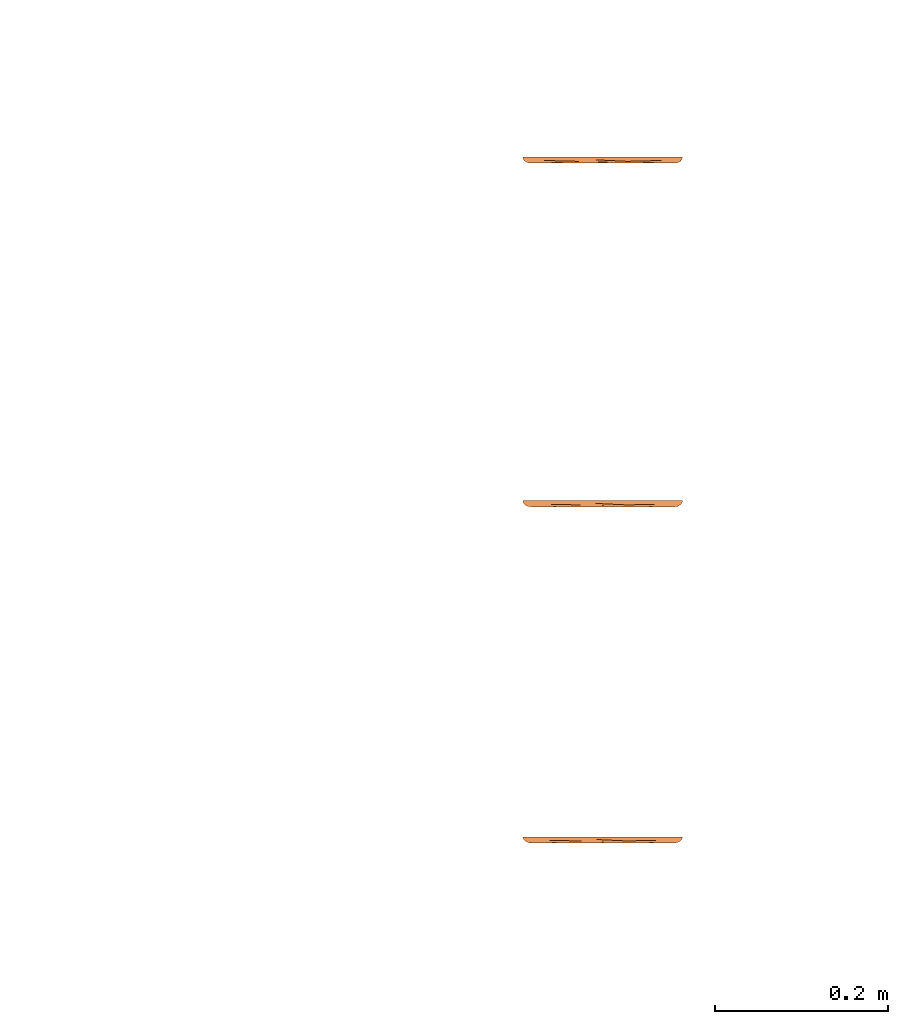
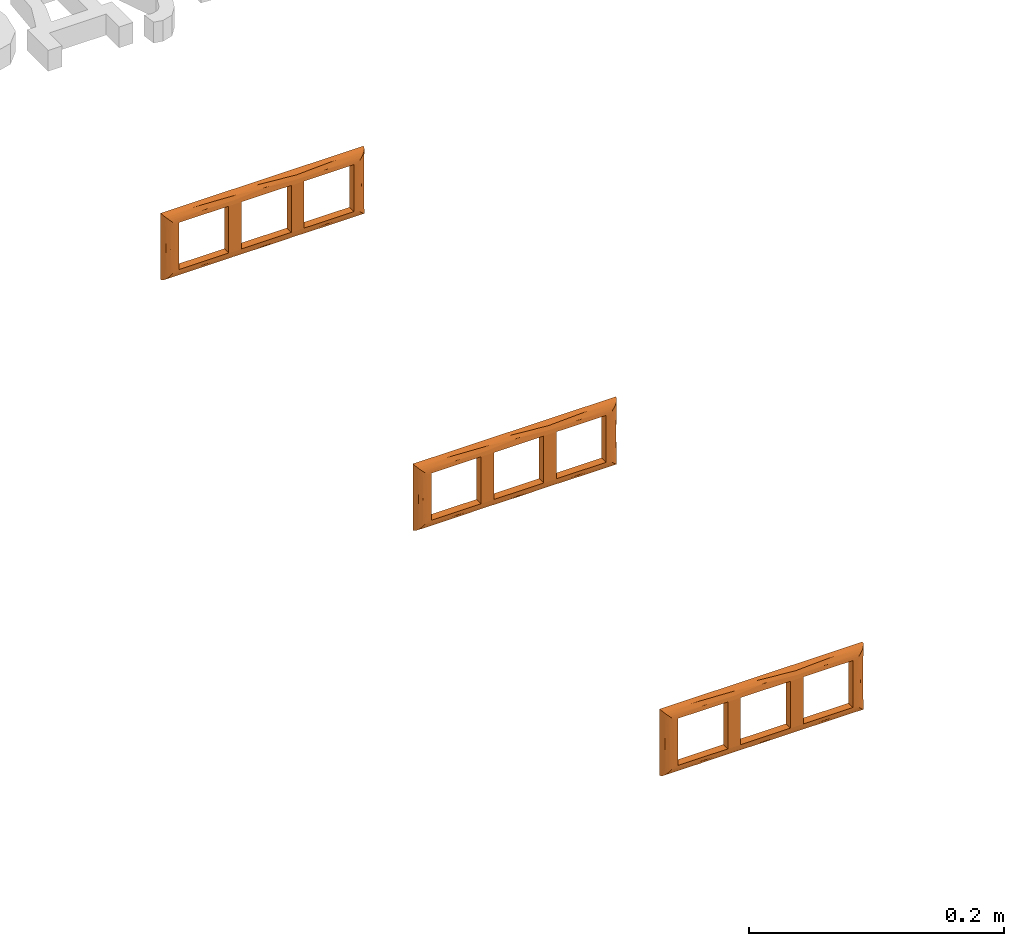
# One storey, part 85 of 87: 3 proxies.
"""IFC2X3 building model written with IfcOpenShell, lengths in millimetres."""

from ifc_helpers import new_model, entity, si_unit, converted_unit, derived_unit, direction, frame, origin, place, context, subcontext, project, spatial, faceted_brep, source, transform, mapped, material, type_object, type_shapes, element, save


model = new_model("IFC2X3")

# Units and contexts
model_context = context("Model", 3, precision=0.01, world=origin(), true_north=direction((6.12303176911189e-17, 1.0)))
body_context = subcontext(model_context, "Body", "Model", "MODEL_VIEW")
ifc_project = project(units=[si_unit("LENGTHUNIT", "METRE", prefix="MILLI"), si_unit("AREAUNIT", "SQUARE_METRE"), si_unit("VOLUMEUNIT", "CUBIC_METRE"), converted_unit("PLANEANGLEUNIT", "DEGREE", entity("IfcRatioMeasure", 0.0174532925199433), si_unit("PLANEANGLEUNIT", "RADIAN"), dimensions=[0, 0, 0, 0, 0, 0, 0]), si_unit("MASSUNIT", "GRAM", prefix="KILO"), derived_unit("MASSDENSITYUNIT", [(si_unit("MASSUNIT", "GRAM", prefix="KILO"), 1), (si_unit("LENGTHUNIT", "METRE"), -3)]), si_unit("TIMEUNIT", "SECOND"), si_unit("FREQUENCYUNIT", "HERTZ"), si_unit("THERMODYNAMICTEMPERATUREUNIT", "DEGREE_CELSIUS"), derived_unit("THERMALTRANSMITTANCEUNIT", [(si_unit("MASSUNIT", "GRAM", prefix="KILO"), 1), (si_unit("THERMODYNAMICTEMPERATUREUNIT", "KELVIN"), -1), (si_unit("TIMEUNIT", "SECOND"), -3)]), derived_unit("VOLUMETRICFLOWRATEUNIT", [(si_unit("LENGTHUNIT", "METRE"), 3), (si_unit("TIMEUNIT", "SECOND"), -1)]), si_unit("ELECTRICCURRENTUNIT", "AMPERE"), si_unit("ELECTRICVOLTAGEUNIT", "VOLT"), si_unit("POWERUNIT", "WATT"), si_unit("FORCEUNIT", "NEWTON", prefix="KILO"), si_unit("ILLUMINANCEUNIT", "LUX"), si_unit("LUMINOUSFLUXUNIT", "LUMEN"), si_unit("LUMINOUSINTENSITYUNIT", "CANDELA"), derived_unit("USERDEFINED", [(si_unit("MASSUNIT", "GRAM", prefix="KILO"), -1), (si_unit("LENGTHUNIT", "METRE"), -2), (si_unit("TIMEUNIT", "SECOND"), 3), (si_unit("LUMINOUSFLUXUNIT", "LUMEN"), 1)]), derived_unit("LINEARVELOCITYUNIT", [(si_unit("LENGTHUNIT", "METRE"), 1), (si_unit("TIMEUNIT", "SECOND"), -1)]), si_unit("PRESSUREUNIT", "PASCAL"), derived_unit("USERDEFINED", [(si_unit("LENGTHUNIT", "METRE"), -2), (si_unit("MASSUNIT", "GRAM", prefix="KILO"), 1), (si_unit("TIMEUNIT", "SECOND"), -2)])], contexts=[model_context])

# Site, building, storey
site_placement = place(None, origin())
site = spatial("IfcSite", under=ifc_project, at=site_placement, Name="Default", CompositionType="ELEMENT")
building_placement = place(site_placement, origin())
building = spatial("IfcBuilding", under=site, at=building_placement, Name="Наименование здания", CompositionType="ELEMENT")
storey_placement = place(building_placement, origin())
storey = spatial("IfcBuildingStorey", under=building, at=storey_placement, Name="Этаж 01", CompositionType="ELEMENT", Elevation=0.0)

# Proxies
ifc_material_1 = material(Name="DKC_Пластик_Белый")
building_element_proxy_type_1 = type_object("IfcBuildingElementProxyType", Name="6 модулей", PredefinedType="NOTDEFINED", material=ifc_material_1)
shared_shape_1 = source(origin(), body_context, "Body", "Brep", [
    faceted_brep([(-22.5000000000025, -7.0, 22.4999999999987), (-22.5000000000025, 0.0, 22.4999999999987), (22.5000000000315, 0.0, 22.4999999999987), (22.5000000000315, -7.0, 22.4999999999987), (34.2000000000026, -7.0, 22.4999999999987), (34.2000000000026, 0.0, 22.4999999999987), (79.2000000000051, 0.0, 22.4999999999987), (79.2000000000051, -7.0, 22.4999999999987), (-79.200000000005, -7.0, 22.4999999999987), (-79.200000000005, 0.0, 22.499999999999), (-34.2000000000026, 0.0, 22.499999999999), (-34.2000000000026, -7.0, 22.499999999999), (-79.200000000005, -7.0, -22.4999999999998), (-82.7000000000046, -7.0, 22.499999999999), (-82.7000000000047, -7.0, 1.57907206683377), (-82.7000000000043, -7.0, -22.5), (-22.5000000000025, -7.0, -22.4999999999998), (-34.2000000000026, -7.0, -22.5000000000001), (34.2000000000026, -7.0, -22.4999999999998), (22.5000000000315, -7.0, -22.5), (79.200000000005, -7.0, -22.4999999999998), (82.7000000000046, -7.0, -22.4999999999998), (82.7000000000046, -7.0, -1.57907206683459), (82.7000000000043, -7.0, 22.4999999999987), (-34.2000000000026, 0.0, -22.5000000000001), (-79.200000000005, 0.0, -22.5000000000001), (22.5000000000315, 0.0, -22.5), (-22.5000000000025, 0.0, -22.5000000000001), (79.200000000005, 0.0, -22.5), (34.2000000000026, 0.0, -22.4999999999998), (-91.9500000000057, 0.0, 31.7499999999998), (-68.8681177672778, 0.0, 31.7499999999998), (-91.9500000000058, 0.0, 7.67092711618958), (-45.7862347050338, 0.0, 31.7499999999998), (4.14758008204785e-07, 0.0, 31.7499999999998), (45.7862355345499, 0.0, 31.7499999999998), (68.8681177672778, 0.0, 31.7499999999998), (91.9500000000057, 0.0, 31.7499999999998), (91.9500000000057, 0.0, -7.67092970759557), (91.9500000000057, 0.0, -31.7500000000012), (68.8681177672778, 0.0, -31.7500000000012), (45.7862355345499, 0.0, -31.7500000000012), (4.14757999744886e-07, 0.0, -31.7500000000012), (-45.7862347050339, 0.0, -31.7500000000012), (-68.8681177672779, 0.0, -31.7500000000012), (-91.9500000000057, 0.0, -31.7500000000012), (84.7583186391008, -6.82449538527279, 24.5583186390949), (86.4634468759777, -6.39443641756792, 1.87649931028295), (86.7134245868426, -6.30678207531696, 26.5134245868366), (84.7583186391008, -6.8244953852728, -24.5583186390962), (86.7134245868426, -6.30678207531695, -26.513424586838), (89.5939057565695, -4.66720571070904, -2.1922061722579e-07), (88.4672806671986, -5.47282037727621, 28.2672806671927), (91.7180831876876, -1.55764653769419, 31.5180831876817), (91.7180831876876, -1.55764653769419, -31.518083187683), (88.4672806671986, -5.47282037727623, -28.267280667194), (89.9319412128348, -4.36442861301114, -29.7319412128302), (91.033962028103, -3.0371861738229, -30.8339620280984), (91.033962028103, -3.0371861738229, 30.8339620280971), (89.9319412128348, -4.36442861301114, 29.7319412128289), (-54.8938307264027, -6.40444269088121, -26.2336177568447), (-58.6819651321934, -4.07463732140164, -30.0213934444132), (-28.3500005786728, -4.82339585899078, -29.2035450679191), (54.8938257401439, -6.4044426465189, -26.2336178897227), (-84.7583186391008, -6.82449538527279, -24.5583186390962), (-2.14125114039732e-06, -5.75807618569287, -27.7599760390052), (28.3499973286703, -4.82339573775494, -29.2035452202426), (28.3499977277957, -6.44985597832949, -26.0945183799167), (-28.3500004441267, -6.44985601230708, -26.0945182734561), (4.77845932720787, -3.25087234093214, -30.6919863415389), (58.6819638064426, -4.07463719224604, -30.0213935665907), (-91.033962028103, -3.03718617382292, -30.8339620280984), (-89.9319412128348, -4.36442861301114, -29.7319412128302), (-91.7180831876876, -1.55764653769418, -31.518083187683), (-88.4672806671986, -5.47282037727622, -28.267280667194), (-86.7134245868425, -6.30678207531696, -26.5134245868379), (-86.4634468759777, -6.39443641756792, -1.87649931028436), (-84.7583186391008, -6.8244953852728, 24.5583186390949), (-86.7134245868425, -6.30678207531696, 26.5134245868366), (-89.5939057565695, -4.66720571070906, 2.1921924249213e-07), (-91.7180831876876, -1.55764653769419, 31.5180831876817), (-88.4672806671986, -5.47282037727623, 28.2672806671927), (-89.9319412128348, -4.36442861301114, 29.7319412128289), (-91.033962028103, -3.0371861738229, 30.8339620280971), (54.8938307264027, -6.40444269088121, 26.2336177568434), (58.6819651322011, -4.07463732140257, 30.0213934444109), (28.3500005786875, -4.82339585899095, 29.2035450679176), (-54.8938257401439, -6.4044426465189, 26.2336178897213), (2.14126501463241e-06, -5.75807618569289, 27.7599760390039), (-28.3499973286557, -4.82339573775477, 29.2035452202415), (-28.3499977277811, -6.44985597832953, 26.0945183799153), (28.3500004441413, -6.44985601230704, 26.0945182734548), (-4.77845932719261, -3.25087234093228, 30.6919863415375), (-58.6819638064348, -4.07463719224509, 30.0213935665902)], [[[0, 1, 2, 3]], [[4, 5, 6, 7]], [[8, 9, 10, 11]], [[12, 8, 13, 14, 15]], [[16, 0, 11, 17]], [[18, 4, 3, 19]], [[20, 21, 22, 23, 7]], [[17, 24, 25, 12]], [[19, 26, 27, 16]], [[20, 28, 29, 18]], [[5, 4, 18, 29]], [[28, 20, 7, 6]], [[30, 9, 25]], [[9, 30, 10]], [[1, 10, 30]], [[30, 2, 1]], [[2, 30, 31]], [[25, 32, 30]], [[2, 31, 33]], [[2, 33, 34]], [[2, 34, 35]], [[2, 35, 36]], [[2, 36, 37]], [[5, 2, 37]], [[37, 6, 5]], [[6, 37, 28]], [[28, 37, 38]], [[28, 38, 39]], [[28, 39, 29]], [[26, 29, 39]], [[26, 39, 40]], [[26, 40, 41]], [[26, 41, 42]], [[26, 42, 43]], [[26, 43, 44]], [[26, 44, 45]], [[45, 25, 24]], [[25, 45, 32]], [[24, 27, 45]], [[45, 27, 26]], [[26, 2, 5]], [[26, 5, 29]], [[27, 10, 1]], [[10, 27, 24]], [[26, 19, 3, 2]], [[1, 0, 16, 27]], [[9, 8, 12, 25]], [[24, 17, 11, 10]], [[46, 47, 48]], [[49, 50, 47]], [[51, 52, 47]], [[38, 37, 53]], [[54, 39, 38]], [[23, 22, 46]], [[49, 22, 21]], [[51, 55, 56]], [[49, 47, 22]], [[55, 51, 47]], [[51, 57, 38]], [[38, 58, 51]], [[38, 53, 58]], [[57, 54, 38]], [[47, 50, 55]], [[51, 56, 57]], [[59, 51, 58]], [[22, 47, 46]], [[52, 51, 59]], [[48, 47, 52]], [[40, 54, 57]], [[60, 61, 62]], [[49, 63, 50]], [[21, 20, 49]], [[12, 15, 64]], [[65, 66, 67]], [[49, 20, 63]], [[16, 68, 65]], [[65, 67, 19]], [[62, 61, 43]], [[42, 69, 62]], [[60, 17, 12]], [[56, 55, 70]], [[71, 61, 72]], [[65, 19, 16]], [[60, 12, 64]], [[66, 69, 41]], [[65, 68, 62]], [[70, 40, 57]], [[66, 65, 69]], [[18, 19, 67]], [[62, 68, 60]], [[73, 44, 71]], [[43, 61, 44]], [[61, 60, 74]], [[66, 70, 63]], [[40, 39, 54]], [[44, 73, 45]], [[20, 18, 63]], [[60, 64, 75]], [[68, 16, 17]], [[65, 62, 69]], [[41, 69, 42]], [[61, 74, 72]], [[17, 60, 68]], [[66, 63, 67]], [[75, 74, 60]], [[50, 63, 55]], [[55, 63, 70]], [[66, 41, 70]], [[18, 67, 63]], [[62, 43, 42]], [[44, 61, 71]], [[56, 70, 57]], [[40, 70, 41]], [[64, 76, 75]], [[77, 78, 76]], [[79, 74, 76]], [[32, 45, 73]], [[80, 30, 32]], [[15, 14, 64]], [[77, 14, 13]], [[79, 81, 82]], [[77, 76, 14]], [[81, 79, 76]], [[79, 83, 32]], [[32, 71, 79]], [[32, 73, 71]], [[83, 80, 32]], [[76, 78, 81]], [[79, 82, 83]], [[72, 79, 71]], [[14, 76, 64]], [[74, 79, 72]], [[75, 76, 74]], [[31, 80, 83]], [[84, 85, 86]], [[77, 87, 78]], [[13, 8, 77]], [[7, 23, 46]], [[88, 89, 90]], [[77, 8, 87]], [[3, 91, 88]], [[88, 90, 0]], [[86, 85, 35]], [[34, 92, 86]], [[84, 4, 7]], [[82, 81, 93]], [[58, 85, 59]], [[88, 0, 3]], [[84, 7, 46]], [[89, 92, 33]], [[88, 91, 86]], [[93, 31, 83]], [[89, 88, 92]], [[11, 0, 90]], [[86, 91, 84]], [[53, 36, 58]], [[35, 85, 36]], [[85, 84, 52]], [[89, 93, 87]], [[31, 30, 80]], [[36, 53, 37]], [[8, 11, 87]], [[84, 46, 48]], [[91, 3, 4]], [[88, 86, 92]], [[33, 92, 34]], [[85, 52, 59]], [[4, 84, 91]], [[89, 87, 90]], [[48, 52, 84]], [[78, 87, 81]], [[81, 87, 93]], [[89, 33, 93]], [[11, 90, 87]], [[86, 35, 34]], [[36, 85, 58]], [[82, 93, 83]], [[31, 93, 33]]]),
])
type_shapes(building_element_proxy_type_1, [shared_shape_1])
proxy_1_placement = place(storey_placement, frame((80066.809657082, -1700.33504459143, 0.0)))
element("IfcBuildingElementProxy", 1, at=proxy_1_placement, inside=storey, type_object=building_element_proxy_type_1, material=ifc_material_1, Name="КНС_Рамка-суппортAvantiДляЭлектроустановочныхИзделий_ILF_DKC:6 модулей", ObjectType="6 модулей", context=body_context, shape_type="MappedRepresentation", body=[
    mapped(shared_shape_1, transform((0.0, 0.0, 0.0), scale=1.0)),
])
ifc_material_2 = material(Name="DKC_Пластик_СерыйМеталлик")
building_element_proxy_type_2 = type_object("IfcBuildingElementProxyType", Name="6 модулей", PredefinedType="NOTDEFINED", material=ifc_material_2)
shared_shape_2 = source(origin(), body_context, "Body", "Brep", [
    faceted_brep([(-79.200000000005, -7.0, -22.4999999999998), (-79.200000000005, -7.0, 22.4999999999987), (-82.7000000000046, -7.0, 22.499999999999), (-82.7000000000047, -7.0, 1.57907206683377), (-82.7000000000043, -7.0, -22.5), (-22.5000000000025, -7.0, -22.4999999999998), (-22.5000000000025, -7.0, 22.4999999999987), (-34.2000000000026, -7.0, 22.499999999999), (-34.2000000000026, -7.0, -22.5), (34.2000000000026, -7.0, -22.4999999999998), (34.2000000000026, -7.0, 22.4999999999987), (22.5000000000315, -7.0, 22.499999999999), (22.5000000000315, -7.0, -22.5), (79.200000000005, -7.0, -22.4999999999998), (82.7000000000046, -7.0, -22.4999999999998), (82.7000000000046, -7.0, -1.57907206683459), (82.7000000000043, -7.0, 22.4999999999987), (79.2000000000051, -7.0, 22.4999999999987), (-34.2000000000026, 0.0, -22.5000000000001), (-79.200000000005, 0.0, -22.5000000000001), (22.5000000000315, 0.0, -22.5), (-22.5000000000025, 0.0, -22.5000000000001), (79.200000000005, 0.0, -22.5), (34.2000000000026, 0.0, -22.4999999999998), (34.2000000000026, 0.0, 22.4999999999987), (79.2000000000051, 0.0, 22.4999999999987), (-22.5000000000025, 0.0, 22.4999999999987), (22.5000000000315, 0.0, 22.4999999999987), (-79.200000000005, 0.0, 22.499999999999), (-34.2000000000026, 0.0, 22.499999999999), (-91.9500000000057, 0.0, 31.7499999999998), (-68.8681177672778, 0.0, 31.7499999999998), (-91.9500000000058, 0.0, 7.67092711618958), (-45.7862347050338, 0.0, 31.7499999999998), (4.14758008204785e-07, 0.0, 31.7499999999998), (45.7862355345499, 0.0, 31.7499999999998), (68.8681177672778, 0.0, 31.7499999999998), (91.9500000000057, 0.0, 31.7499999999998), (91.9500000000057, 0.0, -7.67092970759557), (91.9500000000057, 0.0, -31.7500000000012), (68.8681177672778, 0.0, -31.7500000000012), (45.7862355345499, 0.0, -31.7500000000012), (4.14757999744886e-07, 0.0, -31.7500000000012), (-45.7862347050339, 0.0, -31.7500000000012), (-68.8681177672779, 0.0, -31.7500000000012), (-91.9500000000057, 0.0, -31.7500000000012), (84.7583186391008, -6.82449538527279, 24.5583186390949), (86.4634468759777, -6.39443641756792, 1.87649931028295), (86.7134245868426, -6.30678207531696, 26.5134245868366), (84.7583186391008, -6.8244953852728, -24.5583186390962), (86.7134245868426, -6.30678207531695, -26.513424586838), (89.5939057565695, -4.66720571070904, -2.1922061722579e-07), (88.4672806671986, -5.47282037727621, 28.2672806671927), (91.7180831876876, -1.55764653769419, 31.5180831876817), (91.7180831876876, -1.55764653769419, -31.518083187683), (88.4672806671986, -5.47282037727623, -28.267280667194), (89.9319412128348, -4.36442861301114, -29.7319412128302), (91.033962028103, -3.0371861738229, -30.8339620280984), (91.033962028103, -3.0371861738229, 30.8339620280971), (89.9319412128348, -4.36442861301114, 29.7319412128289), (-54.8938307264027, -6.40444269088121, -26.2336177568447), (-58.6819651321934, -4.07463732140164, -30.0213934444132), (-28.3500005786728, -4.82339585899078, -29.2035450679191), (54.8938257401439, -6.4044426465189, -26.2336178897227), (-84.7583186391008, -6.82449538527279, -24.5583186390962), (-2.14125114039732e-06, -5.75807618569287, -27.7599760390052), (28.3499973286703, -4.82339573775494, -29.2035452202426), (28.3499977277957, -6.44985597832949, -26.0945183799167), (-28.3500004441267, -6.44985601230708, -26.0945182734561), (4.77845932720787, -3.25087234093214, -30.6919863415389), (58.6819638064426, -4.07463719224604, -30.0213935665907), (-91.033962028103, -3.03718617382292, -30.8339620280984), (-89.9319412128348, -4.36442861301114, -29.7319412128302), (-91.7180831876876, -1.55764653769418, -31.518083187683), (-88.4672806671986, -5.47282037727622, -28.267280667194), (-86.7134245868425, -6.30678207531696, -26.5134245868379), (-86.4634468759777, -6.39443641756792, -1.87649931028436), (-84.7583186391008, -6.8244953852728, 24.5583186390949), (-86.7134245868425, -6.30678207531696, 26.5134245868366), (-89.5939057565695, -4.66720571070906, 2.1921924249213e-07), (-91.7180831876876, -1.55764653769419, 31.5180831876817), (-88.4672806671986, -5.47282037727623, 28.2672806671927), (-89.9319412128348, -4.36442861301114, 29.7319412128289), (-91.033962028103, -3.0371861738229, 30.8339620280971), (54.8938307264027, -6.40444269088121, 26.2336177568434), (58.6819651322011, -4.07463732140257, 30.0213934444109), (28.3500005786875, -4.82339585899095, 29.2035450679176), (-54.8938257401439, -6.4044426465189, 26.2336178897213), (2.14126501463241e-06, -5.75807618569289, 27.7599760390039), (-28.3499973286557, -4.82339573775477, 29.2035452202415), (-28.3499977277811, -6.44985597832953, 26.0945183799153), (28.3500004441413, -6.44985601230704, 26.0945182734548), (-4.77845932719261, -3.25087234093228, 30.6919863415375), (-58.6819638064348, -4.07463719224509, 30.0213935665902)], [[[0, 1, 2, 3, 4]], [[5, 6, 7, 8]], [[9, 10, 11, 12]], [[13, 14, 15, 16, 17]], [[8, 18, 19, 0]], [[12, 20, 21, 5]], [[13, 22, 23, 9]], [[10, 24, 25, 17]], [[6, 26, 27, 11]], [[1, 28, 29, 7]], [[24, 10, 9, 23]], [[22, 13, 17, 25]], [[30, 28, 19]], [[28, 30, 29]], [[26, 29, 30]], [[30, 27, 26]], [[27, 30, 31]], [[19, 32, 30]], [[27, 31, 33]], [[27, 33, 34]], [[27, 34, 35]], [[27, 35, 36]], [[27, 36, 37]], [[24, 27, 37]], [[37, 25, 24]], [[25, 37, 22]], [[22, 37, 38]], [[22, 38, 39]], [[22, 39, 23]], [[20, 23, 39]], [[20, 39, 40]], [[20, 40, 41]], [[20, 41, 42]], [[20, 42, 43]], [[20, 43, 44]], [[20, 44, 45]], [[45, 19, 18]], [[19, 45, 32]], [[18, 21, 45]], [[45, 21, 20]], [[20, 27, 24]], [[20, 24, 23]], [[21, 29, 26]], [[29, 21, 18]], [[20, 12, 11, 27]], [[26, 6, 5, 21]], [[28, 1, 0, 19]], [[18, 8, 7, 29]], [[46, 47, 48]], [[49, 50, 47]], [[51, 52, 47]], [[38, 37, 53]], [[54, 39, 38]], [[16, 15, 46]], [[49, 15, 14]], [[51, 55, 56]], [[49, 47, 15]], [[55, 51, 47]], [[51, 57, 38]], [[38, 58, 51]], [[38, 53, 58]], [[57, 54, 38]], [[47, 50, 55]], [[51, 56, 57]], [[59, 51, 58]], [[15, 47, 46]], [[52, 51, 59]], [[48, 47, 52]], [[40, 54, 57]], [[60, 61, 62]], [[49, 63, 50]], [[14, 13, 49]], [[0, 4, 64]], [[65, 66, 67]], [[49, 13, 63]], [[5, 68, 65]], [[65, 67, 12]], [[62, 61, 43]], [[42, 69, 62]], [[60, 8, 0]], [[56, 55, 70]], [[71, 61, 72]], [[65, 12, 5]], [[60, 0, 64]], [[66, 69, 41]], [[65, 68, 62]], [[70, 40, 57]], [[66, 65, 69]], [[9, 12, 67]], [[62, 68, 60]], [[73, 44, 71]], [[43, 61, 44]], [[61, 60, 74]], [[66, 70, 63]], [[40, 39, 54]], [[44, 73, 45]], [[13, 9, 63]], [[60, 64, 75]], [[68, 5, 8]], [[65, 62, 69]], [[41, 69, 42]], [[61, 74, 72]], [[8, 60, 68]], [[66, 63, 67]], [[75, 74, 60]], [[50, 63, 55]], [[55, 63, 70]], [[66, 41, 70]], [[9, 67, 63]], [[62, 43, 42]], [[44, 61, 71]], [[56, 70, 57]], [[40, 70, 41]], [[64, 76, 75]], [[77, 78, 76]], [[79, 74, 76]], [[32, 45, 73]], [[80, 30, 32]], [[4, 3, 64]], [[77, 3, 2]], [[79, 81, 82]], [[77, 76, 3]], [[81, 79, 76]], [[79, 83, 32]], [[32, 71, 79]], [[32, 73, 71]], [[83, 80, 32]], [[76, 78, 81]], [[79, 82, 83]], [[72, 79, 71]], [[3, 76, 64]], [[74, 79, 72]], [[75, 76, 74]], [[31, 80, 83]], [[84, 85, 86]], [[77, 87, 78]], [[2, 1, 77]], [[17, 16, 46]], [[88, 89, 90]], [[77, 1, 87]], [[11, 91, 88]], [[88, 90, 6]], [[86, 85, 35]], [[34, 92, 86]], [[84, 10, 17]], [[82, 81, 93]], [[58, 85, 59]], [[88, 6, 11]], [[84, 17, 46]], [[89, 92, 33]], [[88, 91, 86]], [[93, 31, 83]], [[89, 88, 92]], [[7, 6, 90]], [[86, 91, 84]], [[53, 36, 58]], [[35, 85, 36]], [[85, 84, 52]], [[89, 93, 87]], [[31, 30, 80]], [[36, 53, 37]], [[1, 7, 87]], [[84, 46, 48]], [[91, 11, 10]], [[88, 86, 92]], [[33, 92, 34]], [[85, 52, 59]], [[10, 84, 91]], [[89, 87, 90]], [[48, 52, 84]], [[78, 87, 81]], [[81, 87, 93]], [[89, 33, 93]], [[7, 90, 87]], [[86, 35, 34]], [[36, 85, 58]], [[82, 93, 83]], [[31, 93, 33]]]),
])
type_shapes(building_element_proxy_type_2, [shared_shape_2])
proxy_2_placement = place(storey_placement, frame((80066.809657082, -2096.57288074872, 0.0)))
element("IfcBuildingElementProxy", 2, at=proxy_2_placement, inside=storey, type_object=building_element_proxy_type_2, material=ifc_material_2, Name="КНС_Рамка-суппортAvantiДляЭлектроустановочныхИзделий_ILF_DKC:6 модулей", ObjectType="6 модулей", context=body_context, shape_type="MappedRepresentation", body=[
    mapped(shared_shape_2, transform((0.0, 0.0, 0.0), scale=1.0)),
])
ifc_material_3 = material(Name="DKC_Пластик_Серо-черный")
building_element_proxy_type_3 = type_object("IfcBuildingElementProxyType", Name="6 модулей", PredefinedType="NOTDEFINED", material=ifc_material_3)
shared_shape_3 = source(origin(), body_context, "Body", "Brep", [
    faceted_brep([(-34.2000000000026, -7.0, -22.5000000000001), (-34.2000000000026, 0.0, -22.5000000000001), (-79.200000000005, 0.0, -22.5000000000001), (-79.200000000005, -7.0, -22.5000000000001), (22.5000000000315, -7.0, -22.5000000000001), (22.5000000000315, 0.0, -22.5), (-22.5000000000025, 0.0, -22.5000000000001), (-22.5000000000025, -7.0, -22.5000000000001), (79.200000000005, -7.0, -22.4999999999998), (79.200000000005, 0.0, -22.5), (34.2000000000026, 0.0, -22.4999999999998), (34.2000000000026, -7.0, -22.4999999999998), (34.2000000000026, -7.0, 22.4999999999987), (34.2000000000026, 0.0, 22.4999999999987), (79.2000000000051, 0.0, 22.4999999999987), (79.2000000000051, -7.0, 22.4999999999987), (-22.5000000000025, -7.0, 22.4999999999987), (-22.5000000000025, 0.0, 22.4999999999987), (22.5000000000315, 0.0, 22.4999999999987), (22.5000000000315, -7.0, 22.4999999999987), (-79.200000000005, -7.0, 22.4999999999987), (-79.200000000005, 0.0, 22.499999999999), (-34.2000000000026, 0.0, 22.499999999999), (-34.2000000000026, -7.0, 22.499999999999), (-82.7000000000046, -7.0, 22.499999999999), (-82.7000000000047, -7.0, 1.57907206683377), (-82.7000000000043, -7.0, -22.5), (82.7000000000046, -7.0, -22.4999999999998), (82.7000000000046, -7.0, -1.57907206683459), (82.7000000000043, -7.0, 22.4999999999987), (-91.9500000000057, 0.0, 31.7499999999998), (-68.8681177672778, 0.0, 31.7499999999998), (-91.9500000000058, 0.0, 7.67092711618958), (-45.7862347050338, 0.0, 31.7499999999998), (4.14758008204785e-07, 0.0, 31.7499999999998), (45.7862355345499, 0.0, 31.7499999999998), (68.8681177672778, 0.0, 31.7499999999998), (91.9500000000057, 0.0, 31.7499999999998), (91.9500000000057, 0.0, -7.67092970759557), (91.9500000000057, 0.0, -31.7500000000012), (68.8681177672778, 0.0, -31.7500000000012), (45.7862355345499, 0.0, -31.7500000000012), (4.14757999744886e-07, 0.0, -31.7500000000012), (-45.7862347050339, 0.0, -31.7500000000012), (-68.8681177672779, 0.0, -31.7500000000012), (-91.9500000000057, 0.0, -31.7500000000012), (84.7583186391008, -6.82449538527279, 24.5583186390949), (86.4634468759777, -6.39443641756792, 1.87649931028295), (86.7134245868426, -6.30678207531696, 26.5134245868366), (84.7583186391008, -6.8244953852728, -24.5583186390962), (86.7134245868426, -6.30678207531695, -26.513424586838), (89.5939057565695, -4.66720571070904, -2.1922061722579e-07), (88.4672806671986, -5.47282037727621, 28.2672806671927), (91.7180831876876, -1.55764653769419, 31.5180831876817), (91.7180831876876, -1.55764653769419, -31.518083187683), (88.4672806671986, -5.47282037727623, -28.267280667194), (89.9319412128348, -4.36442861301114, -29.7319412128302), (91.033962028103, -3.0371861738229, -30.8339620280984), (91.033962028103, -3.0371861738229, 30.8339620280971), (89.9319412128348, -4.36442861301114, 29.7319412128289), (-54.8938307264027, -6.40444269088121, -26.2336177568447), (-58.6819651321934, -4.07463732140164, -30.0213934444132), (-28.3500005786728, -4.82339585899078, -29.2035450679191), (54.8938257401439, -6.4044426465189, -26.2336178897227), (-84.7583186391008, -6.82449538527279, -24.5583186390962), (-2.14125114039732e-06, -5.75807618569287, -27.7599760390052), (28.3499973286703, -4.82339573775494, -29.2035452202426), (28.3499977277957, -6.44985597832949, -26.0945183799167), (-28.3500004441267, -6.44985601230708, -26.0945182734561), (4.77845932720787, -3.25087234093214, -30.6919863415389), (58.6819638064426, -4.07463719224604, -30.0213935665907), (-91.033962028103, -3.03718617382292, -30.8339620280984), (-89.9319412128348, -4.36442861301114, -29.7319412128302), (-91.7180831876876, -1.55764653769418, -31.518083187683), (-88.4672806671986, -5.47282037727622, -28.267280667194), (-86.7134245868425, -6.30678207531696, -26.5134245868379), (-86.4634468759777, -6.39443641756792, -1.87649931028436), (-84.7583186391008, -6.8244953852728, 24.5583186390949), (-86.7134245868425, -6.30678207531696, 26.5134245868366), (-89.5939057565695, -4.66720571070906, 2.1921924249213e-07), (-91.7180831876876, -1.55764653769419, 31.5180831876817), (-88.4672806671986, -5.47282037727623, 28.2672806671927), (-89.9319412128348, -4.36442861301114, 29.7319412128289), (-91.033962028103, -3.0371861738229, 30.8339620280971), (54.8938307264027, -6.40444269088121, 26.2336177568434), (58.6819651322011, -4.07463732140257, 30.0213934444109), (28.3500005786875, -4.82339585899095, 29.2035450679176), (-54.8938257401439, -6.4044426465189, 26.2336178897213), (2.14126501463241e-06, -5.75807618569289, 27.7599760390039), (-28.3499973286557, -4.82339573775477, 29.2035452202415), (-28.3499977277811, -6.44985597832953, 26.0945183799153), (28.3500004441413, -6.44985601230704, 26.0945182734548), (-4.77845932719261, -3.25087234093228, 30.6919863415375), (-58.6819638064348, -4.07463719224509, 30.0213935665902)], [[[0, 1, 2, 3]], [[4, 5, 6, 7]], [[8, 9, 10, 11]], [[12, 13, 14, 15]], [[16, 17, 18, 19]], [[20, 21, 22, 23]], [[11, 12, 19, 4]], [[7, 16, 23, 0]], [[3, 20, 24, 25, 26]], [[8, 27, 28, 29, 15]], [[13, 12, 11, 10]], [[9, 8, 15, 14]], [[30, 21, 2]], [[21, 30, 22]], [[17, 22, 30]], [[30, 18, 17]], [[18, 30, 31]], [[2, 32, 30]], [[18, 31, 33]], [[18, 33, 34]], [[18, 34, 35]], [[18, 35, 36]], [[18, 36, 37]], [[13, 18, 37]], [[37, 14, 13]], [[14, 37, 9]], [[9, 37, 38]], [[9, 38, 39]], [[9, 39, 10]], [[5, 10, 39]], [[5, 39, 40]], [[5, 40, 41]], [[5, 41, 42]], [[5, 42, 43]], [[5, 43, 44]], [[5, 44, 45]], [[45, 2, 1]], [[2, 45, 32]], [[1, 6, 45]], [[45, 6, 5]], [[5, 18, 13]], [[5, 13, 10]], [[6, 22, 17]], [[22, 6, 1]], [[5, 4, 19, 18]], [[17, 16, 7, 6]], [[21, 20, 3, 2]], [[1, 0, 23, 22]], [[46, 47, 48]], [[49, 50, 47]], [[51, 52, 47]], [[38, 37, 53]], [[54, 39, 38]], [[29, 28, 46]], [[49, 28, 27]], [[51, 55, 56]], [[49, 47, 28]], [[55, 51, 47]], [[51, 57, 38]], [[38, 58, 51]], [[38, 53, 58]], [[57, 54, 38]], [[47, 50, 55]], [[51, 56, 57]], [[59, 51, 58]], [[28, 47, 46]], [[52, 51, 59]], [[48, 47, 52]], [[40, 54, 57]], [[60, 61, 62]], [[49, 63, 50]], [[27, 8, 49]], [[3, 26, 64]], [[65, 66, 67]], [[49, 8, 63]], [[7, 68, 65]], [[65, 67, 4]], [[62, 61, 43]], [[42, 69, 62]], [[60, 0, 3]], [[56, 55, 70]], [[71, 61, 72]], [[65, 4, 7]], [[60, 3, 64]], [[66, 69, 41]], [[65, 68, 62]], [[70, 40, 57]], [[66, 65, 69]], [[11, 4, 67]], [[62, 68, 60]], [[73, 44, 71]], [[43, 61, 44]], [[61, 60, 74]], [[66, 70, 63]], [[40, 39, 54]], [[44, 73, 45]], [[8, 11, 63]], [[60, 64, 75]], [[68, 7, 0]], [[65, 62, 69]], [[41, 69, 42]], [[61, 74, 72]], [[0, 60, 68]], [[66, 63, 67]], [[75, 74, 60]], [[50, 63, 55]], [[55, 63, 70]], [[66, 41, 70]], [[11, 67, 63]], [[62, 43, 42]], [[44, 61, 71]], [[56, 70, 57]], [[40, 70, 41]], [[64, 76, 75]], [[77, 78, 76]], [[79, 74, 76]], [[32, 45, 73]], [[80, 30, 32]], [[26, 25, 64]], [[77, 25, 24]], [[79, 81, 82]], [[77, 76, 25]], [[81, 79, 76]], [[79, 83, 32]], [[32, 71, 79]], [[32, 73, 71]], [[83, 80, 32]], [[76, 78, 81]], [[79, 82, 83]], [[72, 79, 71]], [[25, 76, 64]], [[74, 79, 72]], [[75, 76, 74]], [[31, 80, 83]], [[84, 85, 86]], [[77, 87, 78]], [[24, 20, 77]], [[15, 29, 46]], [[88, 89, 90]], [[77, 20, 87]], [[19, 91, 88]], [[88, 90, 16]], [[86, 85, 35]], [[34, 92, 86]], [[84, 12, 15]], [[82, 81, 93]], [[58, 85, 59]], [[88, 16, 19]], [[84, 15, 46]], [[89, 92, 33]], [[88, 91, 86]], [[93, 31, 83]], [[89, 88, 92]], [[23, 16, 90]], [[86, 91, 84]], [[53, 36, 58]], [[35, 85, 36]], [[85, 84, 52]], [[89, 93, 87]], [[31, 30, 80]], [[36, 53, 37]], [[20, 23, 87]], [[84, 46, 48]], [[91, 19, 12]], [[88, 86, 92]], [[33, 92, 34]], [[85, 52, 59]], [[12, 84, 91]], [[89, 87, 90]], [[48, 52, 84]], [[78, 87, 81]], [[81, 87, 93]], [[89, 33, 93]], [[23, 90, 87]], [[86, 35, 34]], [[36, 85, 58]], [[82, 93, 83]], [[31, 93, 33]]]),
])
type_shapes(building_element_proxy_type_3, [shared_shape_3])
proxy_3_placement = place(storey_placement, frame((80066.809657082, -2484.10219303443, 0.0)))
element("IfcBuildingElementProxy", 3, at=proxy_3_placement, inside=storey, type_object=building_element_proxy_type_3, material=ifc_material_3, Name="КНС_Рамка-суппортAvantiДляЭлектроустановочныхИзделий_ILF_DKC:6 модулей", ObjectType="6 модулей", context=body_context, shape_type="MappedRepresentation", body=[
    mapped(shared_shape_3, transform((0.0, 0.0, 0.0), scale=1.0)),
])

save(model, "model.ifc")
